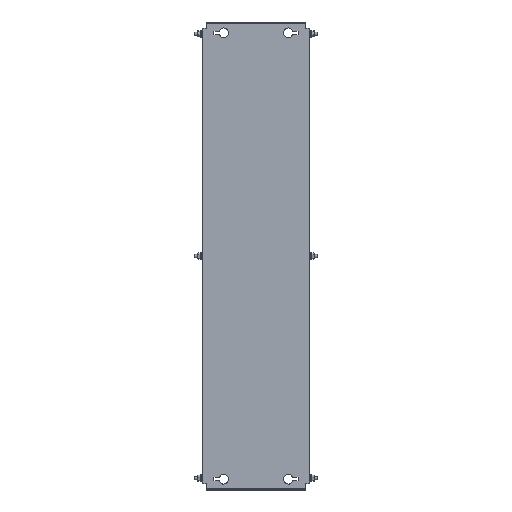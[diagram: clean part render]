
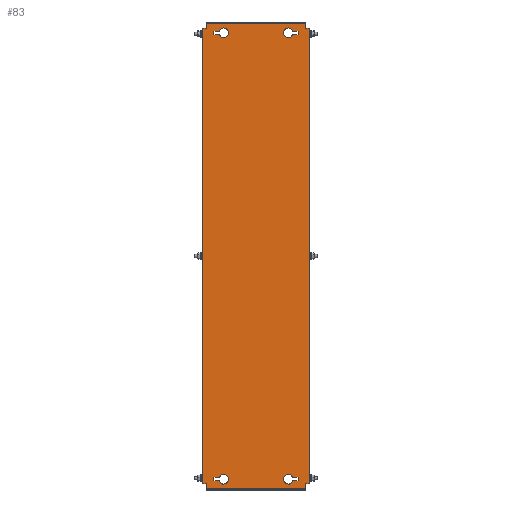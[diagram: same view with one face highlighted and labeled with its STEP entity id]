
A CAD part, top view. The second image highlights one B-rep face of the part: STEP entity #83.
In plain terms, the highlighted planar face has unit normal (0, 0, 1).
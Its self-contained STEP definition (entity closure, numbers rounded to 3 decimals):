
#83 = ADVANCED_FACE('',(#84,#119,#154,#316,#351),#386,.T.);
#84 = FACE_BOUND('',#85,.T.);
#85 = EDGE_LOOP('',(#86,#96,#104,#112));
#86 = ORIENTED_EDGE('',*,*,#87,.T.);
#87 = EDGE_CURVE('',#88,#90,#92,.T.);
#88 = VERTEX_POINT('',#89);
#89 = CARTESIAN_POINT('',(68.393,417.75,2.));
#90 = VERTEX_POINT('',#91);
#91 = CARTESIAN_POINT('',(78.,417.75,2.));
#92 = LINE('',#93,#94);
#93 = CARTESIAN_POINT('',(77.,417.75,2.));
#94 = VECTOR('',#95,1.);
#95 = DIRECTION('',(1.,0.,0.));
#96 = ORIENTED_EDGE('',*,*,#97,.T.);
#97 = EDGE_CURVE('',#90,#98,#100,.T.);
#98 = VERTEX_POINT('',#99);
#99 = CARTESIAN_POINT('',(78.,411.25,2.));
#100 = LINE('',#101,#102);
#101 = CARTESIAN_POINT('',(78.,417.75,2.));
#102 = VECTOR('',#103,1.);
#103 = DIRECTION('',(0.,-1.,0.));
#104 = ORIENTED_EDGE('',*,*,#105,.T.);
#105 = EDGE_CURVE('',#98,#106,#108,.T.);
#106 = VERTEX_POINT('',#107);
#107 = CARTESIAN_POINT('',(68.393,411.25,2.));
#108 = LINE('',#109,#110);
#109 = CARTESIAN_POINT('',(77.,411.25,2.));
#110 = VECTOR('',#111,1.);
#111 = DIRECTION('',(-1.,0.,0.));
#112 = ORIENTED_EDGE('',*,*,#113,.T.);
#113 = EDGE_CURVE('',#106,#88,#114,.T.);
#114 = CIRCLE('',#115,9.);
#115 = AXIS2_PLACEMENT_3D('',#116,#117,#118);
#116 = CARTESIAN_POINT('',(60.,414.5,2.));
#117 = DIRECTION('',(0.,0.,-1.));
#118 = DIRECTION('',(1.,0.,0.));
#119 = FACE_BOUND('',#120,.T.);
#120 = EDGE_LOOP('',(#121,#131,#139,#147));
#121 = ORIENTED_EDGE('',*,*,#122,.T.);
#122 = EDGE_CURVE('',#123,#125,#127,.T.);
#123 = VERTEX_POINT('',#124);
#124 = CARTESIAN_POINT('',(-68.393,-417.75,2.));
#125 = VERTEX_POINT('',#126);
#126 = CARTESIAN_POINT('',(-78.,-417.75,2.));
#127 = LINE('',#128,#129);
#128 = CARTESIAN_POINT('',(-77.,-417.75,2.));
#129 = VECTOR('',#130,1.);
#130 = DIRECTION('',(-1.,0.,0.));
#131 = ORIENTED_EDGE('',*,*,#132,.T.);
#132 = EDGE_CURVE('',#125,#133,#135,.T.);
#133 = VERTEX_POINT('',#134);
#134 = CARTESIAN_POINT('',(-78.,-411.25,2.));
#135 = LINE('',#136,#137);
#136 = CARTESIAN_POINT('',(-78.,-417.75,2.));
#137 = VECTOR('',#138,1.);
#138 = DIRECTION('',(0.,1.,0.));
#139 = ORIENTED_EDGE('',*,*,#140,.T.);
#140 = EDGE_CURVE('',#133,#141,#143,.T.);
#141 = VERTEX_POINT('',#142);
#142 = CARTESIAN_POINT('',(-68.393,-411.25,2.));
#143 = LINE('',#144,#145);
#144 = CARTESIAN_POINT('',(-77.,-411.25,2.));
#145 = VECTOR('',#146,1.);
#146 = DIRECTION('',(1.,-0.,-0.));
#147 = ORIENTED_EDGE('',*,*,#148,.T.);
#148 = EDGE_CURVE('',#141,#123,#149,.T.);
#149 = CIRCLE('',#150,9.);
#150 = AXIS2_PLACEMENT_3D('',#151,#152,#153);
#151 = CARTESIAN_POINT('',(-60.,-414.5,2.));
#152 = DIRECTION('',(0.,0.,-1.));
#153 = DIRECTION('',(-1.,0.,0.));
#154 = FACE_BOUND('',#155,.T.);
#155 = EDGE_LOOP('',(#156,#166,#174,#182,#190,#198,#206,#214,#222,#230,
    #238,#246,#254,#262,#270,#278,#286,#294,#302,#310));
#156 = ORIENTED_EDGE('',*,*,#157,.F.);
#157 = EDGE_CURVE('',#158,#160,#162,.T.);
#158 = VERTEX_POINT('',#159);
#159 = CARTESIAN_POINT('',(-97.4,422.5,2.));
#160 = VERTEX_POINT('',#161);
#161 = CARTESIAN_POINT('',(-92.,422.5,2.));
#162 = LINE('',#163,#164);
#163 = CARTESIAN_POINT('',(-98.,422.5,2.));
#164 = VECTOR('',#165,1.);
#165 = DIRECTION('',(1.,0.,-0.));
#166 = ORIENTED_EDGE('',*,*,#167,.T.);
#167 = EDGE_CURVE('',#158,#168,#170,.T.);
#168 = VERTEX_POINT('',#169);
#169 = CARTESIAN_POINT('',(-100.,422.5,2.));
#170 = LINE('',#171,#172);
#171 = CARTESIAN_POINT('',(-97.4,422.5,2.));
#172 = VECTOR('',#173,1.);
#173 = DIRECTION('',(-1.,0.,0.));
#174 = ORIENTED_EDGE('',*,*,#175,.F.);
#175 = EDGE_CURVE('',#176,#168,#178,.T.);
#176 = VERTEX_POINT('',#177);
#177 = CARTESIAN_POINT('',(-100.,-422.5,2.));
#178 = LINE('',#179,#180);
#179 = CARTESIAN_POINT('',(-100.,-432.5,2.));
#180 = VECTOR('',#181,1.);
#181 = DIRECTION('',(0.,1.,-0.));
#182 = ORIENTED_EDGE('',*,*,#183,.F.);
#183 = EDGE_CURVE('',#184,#176,#186,.T.);
#184 = VERTEX_POINT('',#185);
#185 = CARTESIAN_POINT('',(-97.4,-422.5,2.));
#186 = LINE('',#187,#188);
#187 = CARTESIAN_POINT('',(-92.,-422.5,2.));
#188 = VECTOR('',#189,1.);
#189 = DIRECTION('',(-1.,-0.,-0.));
#190 = ORIENTED_EDGE('',*,*,#191,.T.);
#191 = EDGE_CURVE('',#184,#192,#194,.T.);
#192 = VERTEX_POINT('',#193);
#193 = CARTESIAN_POINT('',(-92.,-422.5,2.));
#194 = LINE('',#195,#196);
#195 = CARTESIAN_POINT('',(-98.,-422.5,2.));
#196 = VECTOR('',#197,1.);
#197 = DIRECTION('',(1.,0.,-0.));
#198 = ORIENTED_EDGE('',*,*,#199,.T.);
#199 = EDGE_CURVE('',#192,#200,#202,.T.);
#200 = VERTEX_POINT('',#201);
#201 = CARTESIAN_POINT('',(-92.,-431.9,2.));
#202 = LINE('',#203,#204);
#203 = CARTESIAN_POINT('',(-92.,432.5,2.));
#204 = VECTOR('',#205,1.);
#205 = DIRECTION('',(0.,-1.,0.));
#206 = ORIENTED_EDGE('',*,*,#207,.T.);
#207 = EDGE_CURVE('',#200,#208,#210,.T.);
#208 = VERTEX_POINT('',#209);
#209 = CARTESIAN_POINT('',(-92.,-432.5,2.));
#210 = LINE('',#211,#212);
#211 = CARTESIAN_POINT('',(-92.,-431.9,2.));
#212 = VECTOR('',#213,1.);
#213 = DIRECTION('',(-0.,-1.,-0.));
#214 = ORIENTED_EDGE('',*,*,#215,.T.);
#215 = EDGE_CURVE('',#208,#216,#218,.T.);
#216 = VERTEX_POINT('',#217);
#217 = CARTESIAN_POINT('',(92.,-432.5,2.));
#218 = LINE('',#219,#220);
#219 = CARTESIAN_POINT('',(92.,-432.5,2.));
#220 = VECTOR('',#221,1.);
#221 = DIRECTION('',(1.,0.,0.));
#222 = ORIENTED_EDGE('',*,*,#223,.F.);
#223 = EDGE_CURVE('',#224,#216,#226,.T.);
#224 = VERTEX_POINT('',#225);
#225 = CARTESIAN_POINT('',(92.,-431.9,2.));
#226 = LINE('',#227,#228);
#227 = CARTESIAN_POINT('',(92.,-432.5,2.));
#228 = VECTOR('',#229,1.);
#229 = DIRECTION('',(0.,-1.,0.));
#230 = ORIENTED_EDGE('',*,*,#231,.T.);
#231 = EDGE_CURVE('',#224,#232,#234,.T.);
#232 = VERTEX_POINT('',#233);
#233 = CARTESIAN_POINT('',(92.,-422.5,2.));
#234 = LINE('',#235,#236);
#235 = CARTESIAN_POINT('',(92.,432.5,2.));
#236 = VECTOR('',#237,1.);
#237 = DIRECTION('',(0.,1.,-0.));
#238 = ORIENTED_EDGE('',*,*,#239,.F.);
#239 = EDGE_CURVE('',#240,#232,#242,.T.);
#240 = VERTEX_POINT('',#241);
#241 = CARTESIAN_POINT('',(97.4,-422.5,2.));
#242 = LINE('',#243,#244);
#243 = CARTESIAN_POINT('',(98.,-422.5,2.));
#244 = VECTOR('',#245,1.);
#245 = DIRECTION('',(-1.,0.,-0.));
#246 = ORIENTED_EDGE('',*,*,#247,.T.);
#247 = EDGE_CURVE('',#240,#248,#250,.T.);
#248 = VERTEX_POINT('',#249);
#249 = CARTESIAN_POINT('',(100.,-422.5,2.));
#250 = LINE('',#251,#252);
#251 = CARTESIAN_POINT('',(97.4,-422.5,2.));
#252 = VECTOR('',#253,1.);
#253 = DIRECTION('',(1.,-0.,0.));
#254 = ORIENTED_EDGE('',*,*,#255,.F.);
#255 = EDGE_CURVE('',#256,#248,#258,.T.);
#256 = VERTEX_POINT('',#257);
#257 = CARTESIAN_POINT('',(100.,422.5,2.));
#258 = LINE('',#259,#260);
#259 = CARTESIAN_POINT('',(100.,-432.5,2.));
#260 = VECTOR('',#261,1.);
#261 = DIRECTION('',(0.,-1.,-0.));
#262 = ORIENTED_EDGE('',*,*,#263,.F.);
#263 = EDGE_CURVE('',#264,#256,#266,.T.);
#264 = VERTEX_POINT('',#265);
#265 = CARTESIAN_POINT('',(97.4,422.5,2.));
#266 = LINE('',#267,#268);
#267 = CARTESIAN_POINT('',(-92.,422.5,2.));
#268 = VECTOR('',#269,1.);
#269 = DIRECTION('',(1.,-0.,0.));
#270 = ORIENTED_EDGE('',*,*,#271,.T.);
#271 = EDGE_CURVE('',#264,#272,#274,.T.);
#272 = VERTEX_POINT('',#273);
#273 = CARTESIAN_POINT('',(92.,422.5,2.));
#274 = LINE('',#275,#276);
#275 = CARTESIAN_POINT('',(98.,422.5,2.));
#276 = VECTOR('',#277,1.);
#277 = DIRECTION('',(-1.,0.,-0.));
#278 = ORIENTED_EDGE('',*,*,#279,.T.);
#279 = EDGE_CURVE('',#272,#280,#282,.T.);
#280 = VERTEX_POINT('',#281);
#281 = CARTESIAN_POINT('',(92.,431.9,2.));
#282 = LINE('',#283,#284);
#283 = CARTESIAN_POINT('',(92.,432.5,2.));
#284 = VECTOR('',#285,1.);
#285 = DIRECTION('',(0.,1.,-0.));
#286 = ORIENTED_EDGE('',*,*,#287,.T.);
#287 = EDGE_CURVE('',#280,#288,#290,.T.);
#288 = VERTEX_POINT('',#289);
#289 = CARTESIAN_POINT('',(92.,432.5,2.));
#290 = LINE('',#291,#292);
#291 = CARTESIAN_POINT('',(92.,431.9,2.));
#292 = VECTOR('',#293,1.);
#293 = DIRECTION('',(-0.,1.,-0.));
#294 = ORIENTED_EDGE('',*,*,#295,.T.);
#295 = EDGE_CURVE('',#288,#296,#298,.T.);
#296 = VERTEX_POINT('',#297);
#297 = CARTESIAN_POINT('',(-92.,432.5,2.));
#298 = LINE('',#299,#300);
#299 = CARTESIAN_POINT('',(-92.,432.5,2.));
#300 = VECTOR('',#301,1.);
#301 = DIRECTION('',(-1.,0.,0.));
#302 = ORIENTED_EDGE('',*,*,#303,.F.);
#303 = EDGE_CURVE('',#304,#296,#306,.T.);
#304 = VERTEX_POINT('',#305);
#305 = CARTESIAN_POINT('',(-92.,431.9,2.));
#306 = LINE('',#307,#308);
#307 = CARTESIAN_POINT('',(-92.,-432.5,2.));
#308 = VECTOR('',#309,1.);
#309 = DIRECTION('',(0.,1.,-0.));
#310 = ORIENTED_EDGE('',*,*,#311,.T.);
#311 = EDGE_CURVE('',#304,#160,#312,.T.);
#312 = LINE('',#313,#314);
#313 = CARTESIAN_POINT('',(-92.,432.5,2.));
#314 = VECTOR('',#315,1.);
#315 = DIRECTION('',(0.,-1.,0.));
#316 = FACE_BOUND('',#317,.T.);
#317 = EDGE_LOOP('',(#318,#328,#336,#344));
#318 = ORIENTED_EDGE('',*,*,#319,.F.);
#319 = EDGE_CURVE('',#320,#322,#324,.T.);
#320 = VERTEX_POINT('',#321);
#321 = CARTESIAN_POINT('',(78.,-411.25,2.));
#322 = VERTEX_POINT('',#323);
#323 = CARTESIAN_POINT('',(68.393,-411.25,2.));
#324 = LINE('',#325,#326);
#325 = CARTESIAN_POINT('',(68.393,-411.25,2.));
#326 = VECTOR('',#327,1.);
#327 = DIRECTION('',(-1.,0.,0.));
#328 = ORIENTED_EDGE('',*,*,#329,.F.);
#329 = EDGE_CURVE('',#330,#320,#332,.T.);
#330 = VERTEX_POINT('',#331);
#331 = CARTESIAN_POINT('',(78.,-417.75,2.));
#332 = LINE('',#333,#334);
#333 = CARTESIAN_POINT('',(78.,-411.25,2.));
#334 = VECTOR('',#335,1.);
#335 = DIRECTION('',(0.,1.,0.));
#336 = ORIENTED_EDGE('',*,*,#337,.F.);
#337 = EDGE_CURVE('',#338,#330,#340,.T.);
#338 = VERTEX_POINT('',#339);
#339 = CARTESIAN_POINT('',(68.393,-417.75,2.));
#340 = LINE('',#341,#342);
#341 = CARTESIAN_POINT('',(77.,-417.75,2.));
#342 = VECTOR('',#343,1.);
#343 = DIRECTION('',(1.,0.,0.));
#344 = ORIENTED_EDGE('',*,*,#345,.F.);
#345 = EDGE_CURVE('',#322,#338,#346,.T.);
#346 = CIRCLE('',#347,9.);
#347 = AXIS2_PLACEMENT_3D('',#348,#349,#350);
#348 = CARTESIAN_POINT('',(60.,-414.5,2.));
#349 = DIRECTION('',(0.,-0.,1.));
#350 = DIRECTION('',(1.,0.,0.));
#351 = FACE_BOUND('',#352,.T.);
#352 = EDGE_LOOP('',(#353,#363,#371,#379));
#353 = ORIENTED_EDGE('',*,*,#354,.F.);
#354 = EDGE_CURVE('',#355,#357,#359,.T.);
#355 = VERTEX_POINT('',#356);
#356 = CARTESIAN_POINT('',(-78.,411.25,2.));
#357 = VERTEX_POINT('',#358);
#358 = CARTESIAN_POINT('',(-68.393,411.25,2.));
#359 = LINE('',#360,#361);
#360 = CARTESIAN_POINT('',(-68.393,411.25,2.));
#361 = VECTOR('',#362,1.);
#362 = DIRECTION('',(1.,0.,0.));
#363 = ORIENTED_EDGE('',*,*,#364,.F.);
#364 = EDGE_CURVE('',#365,#355,#367,.T.);
#365 = VERTEX_POINT('',#366);
#366 = CARTESIAN_POINT('',(-78.,417.75,2.));
#367 = LINE('',#368,#369);
#368 = CARTESIAN_POINT('',(-78.,411.25,2.));
#369 = VECTOR('',#370,1.);
#370 = DIRECTION('',(0.,-1.,0.));
#371 = ORIENTED_EDGE('',*,*,#372,.F.);
#372 = EDGE_CURVE('',#373,#365,#375,.T.);
#373 = VERTEX_POINT('',#374);
#374 = CARTESIAN_POINT('',(-68.393,417.75,2.));
#375 = LINE('',#376,#377);
#376 = CARTESIAN_POINT('',(-77.,417.75,2.));
#377 = VECTOR('',#378,1.);
#378 = DIRECTION('',(-1.,0.,0.));
#379 = ORIENTED_EDGE('',*,*,#380,.F.);
#380 = EDGE_CURVE('',#357,#373,#381,.T.);
#381 = CIRCLE('',#382,9.);
#382 = AXIS2_PLACEMENT_3D('',#383,#384,#385);
#383 = CARTESIAN_POINT('',(-60.,414.5,2.));
#384 = DIRECTION('',(0.,-0.,1.));
#385 = DIRECTION('',(-1.,0.,0.));
#386 = PLANE('',#387);
#387 = AXIS2_PLACEMENT_3D('',#388,#389,#390);
#388 = CARTESIAN_POINT('',(-92.,-432.5,2.));
#389 = DIRECTION('',(-0.,0.,1.));
#390 = DIRECTION('',(1.,0.,0.));
